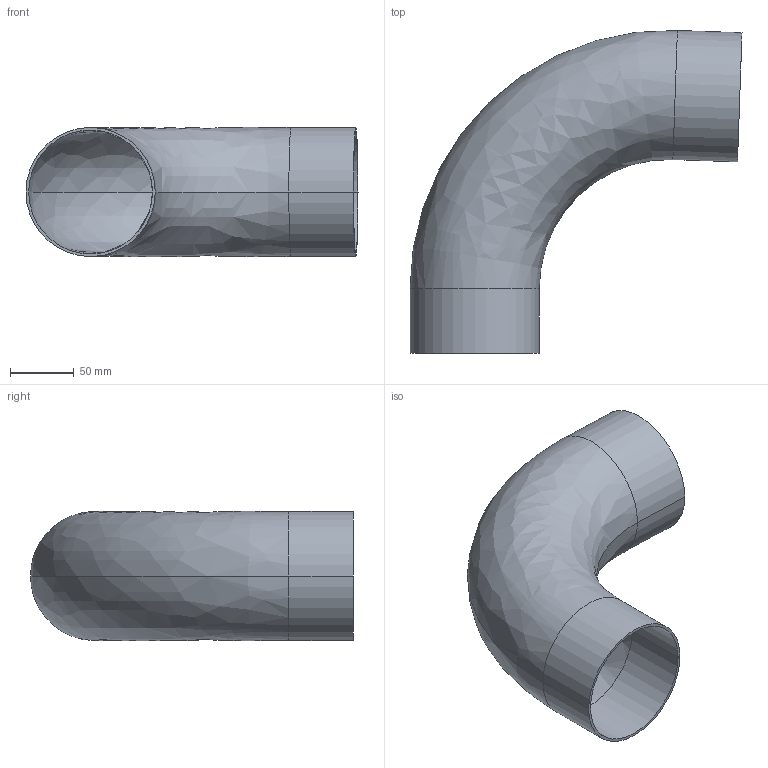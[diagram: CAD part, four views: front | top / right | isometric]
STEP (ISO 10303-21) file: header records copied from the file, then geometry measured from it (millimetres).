
FILE_DESCRIPTION (( 'STEP AP214' ), '1' );
FILE_NAME ('TE2S926L4.0-...STEP', '2016-05-22T11:29:13', ( 'eran' ), ( '' ), 'SwSTEP 2.0', 'SolidWorks 2016', '' );
FILE_SCHEMA (( 'AUTOMOTIVE_DESIGN' ));
Length unit declared in the file: millimetre
Products named in the file (1): TE2S926L4.0-..
Bounding box: 261.1 x 253.96 x 101.6 mm (x, y, z)
Volume: 228474.7 mm3; surface area: 217882.5 mm2
Topology: 1 solids, 1 shells, 14 faces, 28 edges, 16 vertices
Faces by surface type: cylinder 8, bspline 4, plane 2
Entity records: 450 total; most frequent: CARTESIAN_POINT 119, DIRECTION 70, ORIENTED_EDGE 56, AXIS2_PLACEMENT_3D 31, EDGE_CURVE 28, CIRCLE 20, VERTEX_POINT 16, EDGE_LOOP 16
